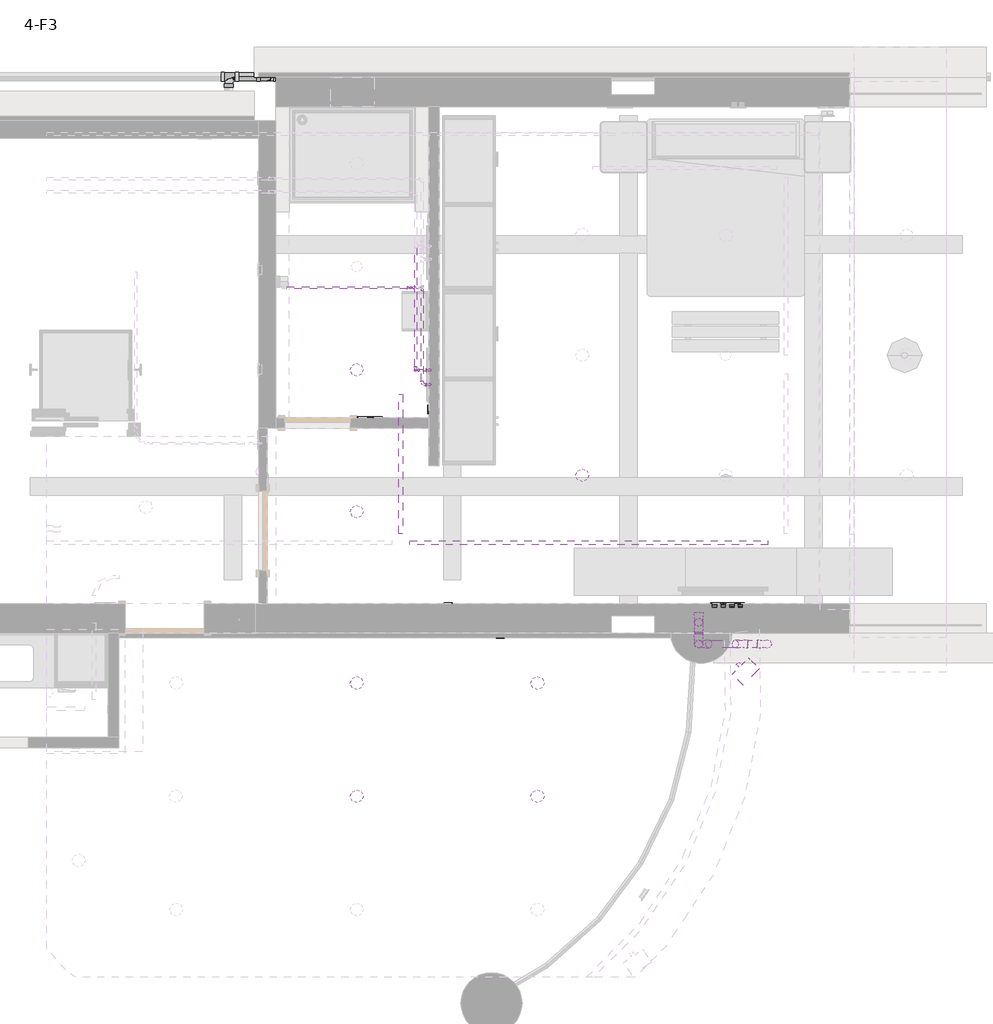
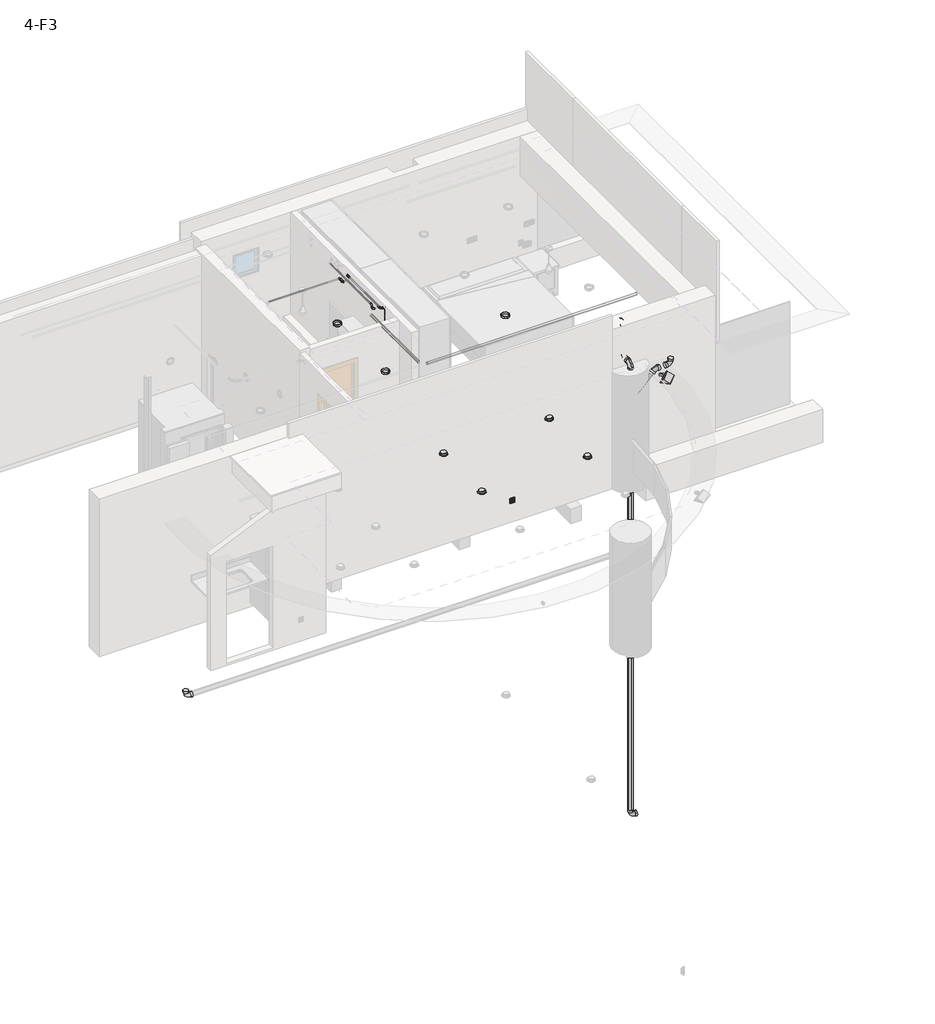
# One storey, part 10 of 11: 25 pipe fittings, 21 pipe segments, 8 light fixtures, 5 proxies, 3 switching devices, 2 cable carrier segments, 2 electric appliances.
"""IFC4 building model written with IfcOpenShell, lengths in millimetres."""

from ifc_helpers import new_model, si_unit, point, frame, frame_2d, origin, place, context, project, spatial, circle_curve, trimmed, segment, composite_curve, outline, extrude, transform, mapped, element, save
from components import wall_mounted_socket_ups_wall_mounted_socket_ups_4524048d, wall_mounted_data_socket_wall_mounted_data_socket_ap_474314e8, camera_light_down_street_light_9_3c192e06, m_downlight_recessed_can_152mm_incandescent_120v_1ee42939, m_recessed_lamp_round_led_e6f06c98, m_recessed_lamp_round_led_ae0475c0, m_bend_pvc_sch_40_dwv_standard_4b7acc6f, m_bend_pvc_sch_40_dwv_standard_a4b99d37, m_bend_pvc_sch_40_dwv_standard_738aab8b, m_bend_pvc_sch_40_dwv_standard_42e46e6b, m_bend_pvc_sch_40_dwv_standard_94070839, m_tee_reducing_sanitary_pvc_sch_40_dwv_standard_53539b48, m_tee_reducing_sanitary_pvc_sch_40_dwv_standard_7ce0c8e4, m_tee_reducing_sanitary_pvc_sch_40_dwv_standard_07fac418, m_tee_reducing_sanitary_pvc_sch_40_dwv_standard_926349c4, m_tee_sanitary_pvc_sch_40_dwv_standard_97cdccdc, switching_device_ab05ab5c

model = new_model("IFC4")

# Units and contexts
model_context = context("Model", 3, world=origin())
ifc_project = project(units=[si_unit("LENGTHUNIT", "METRE", prefix="MILLI")], contexts=[model_context])

# Site, building, storey
site = spatial("IfcSite", under=ifc_project)
building = spatial("IfcBuilding", under=site)
storey = spatial("IfcBuildingStorey", under=building, Name="4-F3", Elevation=9900.0)

# Proxies
placement = place(None, origin())
wall_mounted_socket_ups_wall_mounted_socket_ups_shape = wall_mounted_socket_ups_wall_mounted_socket_ups_4524048d(model_context)
element("IfcBuildingElementProxy", 1, Name="WALL MOUNTED SOCKET : WALL MOUNTED SOCKET", ObjectType="WALL MOUNTED SOCKET : WALL MOUNTED SOCKET", at=placement, inside=storey, context=model_context, shape_type="MappedRepresentation", body=[
    mapped(wall_mounted_socket_ups_wall_mounted_socket_ups_shape, transform((1942.5234079, 2780.6486583, 10350.0), x_axis=(1.0, 0.0, 0.0), y_axis=(0.0, 0.0, 1.0), z_axis=(0.0, -1.0, 0.0))),
])
element("IfcBuildingElementProxy", 2, Name="WALL MOUNTED SOCKET : WALL MOUNTED SOCKET", ObjectType="WALL MOUNTED SOCKET : WALL MOUNTED SOCKET", at=placement, inside=storey, context=model_context, shape_type="MappedRepresentation", body=[
    mapped(wall_mounted_socket_ups_wall_mounted_socket_ups_shape, transform((1346.1734079, 3170.6486583, 10350.0), x_axis=(-1.0, 0.0, 0.0), y_axis=(0.0, 0.0, 1.0), z_axis=(0.0, 1.0, 0.0))),
])
element("IfcBuildingElementProxy", 3, Name="WALL MOUNTED SOCKET UPS : WALL MOUNTED SOCKET UPS", ObjectType="WALL MOUNTED SOCKET UPS : WALL MOUNTED SOCKET UPS", at=placement, inside=storey, context=model_context, shape_type="MappedRepresentation", body=[
    mapped(wall_mounted_socket_ups_wall_mounted_socket_ups_shape, transform((4692.5234079, 3170.6486583, 11100.0), x_axis=(-1.0, 0.0, 0.0), y_axis=(0.0, 0.0, 1.0), z_axis=(0.0, 1.0, 0.0))),
])
element("IfcBuildingElementProxy", 4, Name="WALL MOUNTED SOCKET UPS : WALL MOUNTED SOCKET UPS", ObjectType="WALL MOUNTED SOCKET UPS : WALL MOUNTED SOCKET UPS", at=placement, inside=storey, context=model_context, shape_type="MappedRepresentation", body=[
    mapped(wall_mounted_socket_ups_wall_mounted_socket_ups_shape, transform((4598.1215014, 3170.6486583, 11100.0), x_axis=(-1.0, 0.0, 0.0), y_axis=(0.0, 0.0, 1.0), z_axis=(0.0, 1.0, 0.0))),
])
element("IfcBuildingElementProxy", 5, Name="WALL MOUNTED SOCKET UPS : WALL MOUNTED SOCKET UPS", ObjectType="WALL MOUNTED SOCKET UPS : WALL MOUNTED SOCKET UPS", at=placement, inside=storey, context=model_context, shape_type="MappedRepresentation", body=[
    mapped(wall_mounted_socket_ups_wall_mounted_socket_ups_shape, transform((1122.5234079, 5394.0420953, 11002.6), x_axis=(0.0, -1.0, 0.0), y_axis=(0.0, 0.0, 1.0), z_axis=(-1.0, 0.0, 0.0))),
])

# Cable carrier segments
element("IfcCableCarrierSegment", 6, ObjectType="Power", at=placement, inside=storey, context=model_context, shape_type="SweptSolid", body=[
    extrude(outline(composite_curve([segment(trimmed(circle_curve(frame_2d((3866.4863231, 12880.825)), 21.08), [point((3887.5663231, 12880.825))], [point((3866.4863231, 12859.745))], False, "CARTESIAN"), True, "CONTINUOUS"), segment(trimmed(circle_curve(frame_2d((3866.4863231, 12880.825)), 21.08), [point((3866.4863231, 12859.745))], [point((3845.4063231, 12880.825))], False, "CARTESIAN"), True, "CONTINUOUS"), segment(trimmed(circle_curve(frame_2d((3866.4863231, 12880.825)), 21.08), [point((3845.4063231, 12880.825))], [point((3866.4863231, 12901.905))], False, "CARTESIAN"), True, "CONTINUOUS"), segment(trimmed(circle_curve(frame_2d((3866.4863231, 12880.825)), 21.08), [point((3866.4863231, 12901.905))], [point((3887.5663231, 12880.825))], False, "CARTESIAN"), True, "CONTINUOUS")], self_intersect=False)), frame((907.0164705, 0.0, 0.0), z_axis=(1.0, 0.0, 0.0), x_axis=(0.0, 1.0, 0.0)), (0.0, 0.0, 1.0), 4100.0),
])
element("IfcCableCarrierSegment", 7, ObjectType="Power", at=placement, inside=storey, context=model_context, shape_type="SweptSolid", body=[
    extrude(outline(composite_curve([segment(trimmed(circle_curve(frame_2d((12880.825, 802.0164705)), 21.08), [point((12880.825, 823.0964705))], [point((12901.905, 802.0164705))], False, "CARTESIAN"), True, "CONTINUOUS"), segment(trimmed(circle_curve(frame_2d((12880.825, 802.0164705)), 21.08), [point((12901.905, 802.0164705))], [point((12880.825, 780.9364705))], False, "CARTESIAN"), True, "CONTINUOUS"), segment(trimmed(circle_curve(frame_2d((12880.825, 802.0164705)), 21.08), [point((12880.825, 780.9364705))], [point((12859.745, 802.0164705))], False, "CARTESIAN"), True, "CONTINUOUS"), segment(trimmed(circle_curve(frame_2d((12880.825, 802.0164705)), 21.08), [point((12859.745, 802.0164705))], [point((12880.825, 823.0964705))], False, "CARTESIAN"), True, "CONTINUOUS")], self_intersect=False)), frame((0.0, 3971.4863231, 0.0), z_axis=(0.0, 1.0, 0.0), x_axis=(0.0, 0.0, 1.0)), (0.0, 0.0, 1.0), 1595.2120988),
])

# Electric appliances
wall_mounted_data_socket_wall_mounted_data_socket_ap_shape = wall_mounted_data_socket_wall_mounted_data_socket_ap_474314e8(model_context)
element("IfcElectricAppliance", 8, ObjectType="WALL MOUNTED DATA SOCKET : WALL MOUNTED DATA SOCKET AP", at=placement, inside=storey, context=model_context, shape_type="MappedRepresentation", body=[
    mapped(wall_mounted_data_socket_wall_mounted_data_socket_ap_shape, transform((4498.1215014, 3170.6486583, 11100.0), x_axis=(-1.0, 0.0, 0.0), y_axis=(0.0, 0.0, 1.0), z_axis=(0.0, 1.0, 0.0))),
])
element("IfcElectricAppliance", 9, ObjectType="WALL MOUNTED DATA SOCKET : WALL MOUNTED DATA SOCKET AP", at=placement, inside=storey, context=model_context, shape_type="MappedRepresentation", body=[
    mapped(wall_mounted_data_socket_wall_mounted_data_socket_ap_shape, transform((4398.1215014, 3170.6486583, 11100.0), x_axis=(-1.0, 0.0, 0.0), y_axis=(0.0, 0.0, 1.0), z_axis=(0.0, 1.0, 0.0))),
])

# Light fixtures
camera_light_down_street_light_9_shape = camera_light_down_street_light_9_3c192e06(model_context)
element("IfcLightFixture", 10, ObjectType="Camera light down : Street Light (9)", at=placement, inside=storey, context=model_context, shape_type="MappedRepresentation", body=[
    mapped(camera_light_down_street_light_9_shape, transform((4531.4963064, 2611.8522, 12100.0), x_axis=(-0.7002166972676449, -0.7139303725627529, 0.0), y_axis=(0.7139303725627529, -0.7002166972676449, 0.0), z_axis=(0.0, 0.0, 1.0))),
])
m_downlight_recessed_can_152mm_incandescent_120v_shape = m_downlight_recessed_can_152mm_incandescent_120v_1ee42939(model_context)
element("IfcLightFixture", 11, ObjectType="M_Downlight - Recessed Can : 203mm Incandescent - 277V", at=placement, inside=storey, context=model_context, shape_type="MappedRepresentation", body=[
    mapped(m_downlight_recessed_can_152mm_incandescent_120v_shape, transform((2882.5234079, 4639.8354313, 10185.4), x_axis=(1.0, 0.0, 0.0), y_axis=(0.0, 1.0, 0.0), z_axis=(0.0, 0.0, 1.0))),
])
element("IfcLightFixture", 12, ObjectType="M_Downlight - Recessed Can : 203mm Incandescent - 277V", at=placement, inside=storey, context=model_context, shape_type="MappedRepresentation", body=[
    mapped(m_downlight_recessed_can_152mm_incandescent_120v_shape, transform((297.5234079, 4223.1608772, 10185.4), x_axis=(1.0, 0.0, 0.0), y_axis=(0.0, 1.0, 0.0), z_axis=(0.0, 0.0, 1.0))),
])
element("IfcLightFixture", 13, ObjectType="M_Downlight - Recessed Can : 203mm Incandescent - 277V", at=placement, inside=storey, context=model_context, shape_type="MappedRepresentation", body=[
    mapped(m_downlight_recessed_can_152mm_incandescent_120v_shape, transform((297.5234079, 5849.8354313, 10185.4), x_axis=(1.0, 0.0, 0.0), y_axis=(0.0, 1.0, 0.0), z_axis=(0.0, 0.0, 1.0))),
])
m_recessed_lamp_round_led_shape = m_recessed_lamp_round_led_e6f06c98(model_context)
element("IfcLightFixture", 14, ObjectType="M_Recessed Lamp - Round - LED : 100mm Trimless Downlight", at=placement, inside=storey, context=model_context, shape_type="MappedRepresentation", body=[
    mapped(m_recessed_lamp_round_led_shape, transform((299.0607507, 961.8997367, 12200.0), x_axis=(1.0, 0.0, 0.0), y_axis=(0.0, -1.0, 0.0), z_axis=(0.0, 0.0, -1.0))),
])
element("IfcLightFixture", 15, ObjectType="M_Recessed Lamp - Round - LED : 100mm Trimless Downlight", at=placement, inside=storey, context=model_context, shape_type="MappedRepresentation", body=[
    mapped(m_recessed_lamp_round_led_shape, transform((2368.5911261, 961.8997367, 12200.0), x_axis=(1.0, 0.0, 0.0), y_axis=(0.0, -1.0, 0.0), z_axis=(0.0, 0.0, -1.0))),
])
m_recessed_lamp_round_led_2_shape = m_recessed_lamp_round_led_ae0475c0(model_context)
element("IfcLightFixture", 16, ObjectType="M_Recessed Lamp - Round - LED : 100mm Trimless Downlight", at=placement, inside=storey, context=model_context, shape_type="MappedRepresentation", body=[
    mapped(m_recessed_lamp_round_led_2_shape, transform((299.0607507, 2259.6205595, 12200.0), x_axis=(1.0, 0.0, 0.0), y_axis=(0.0, -1.0, 0.0), z_axis=(0.0, 0.0, -1.0))),
])
element("IfcLightFixture", 17, ObjectType="M_Recessed Lamp - Round - LED : 100mm Trimless Downlight", at=placement, inside=storey, context=model_context, shape_type="MappedRepresentation", body=[
    mapped(m_recessed_lamp_round_led_2_shape, transform((2368.5911261, 2259.6205595, 12200.0), x_axis=(1.0, 0.0, 0.0), y_axis=(0.0, -1.0, 0.0), z_axis=(0.0, 0.0, -1.0))),
])

# Pipe fittings
m_bend_pvc_sch_40_dwv_standard_shape = m_bend_pvc_sch_40_dwv_standard_4b7acc6f(model_context)
element("IfcPipeFitting", 18, ObjectType="M_Bend - PVC - Sch 40 - DWV : Standard", at=placement, inside=storey, context=model_context, shape_type="MappedRepresentation", body=[
    mapped(m_bend_pvc_sch_40_dwv_standard_shape, transform((4695.9428605, 2705.8515547, 12153.7), x_axis=(0.7071067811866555, 0.0, 0.7071067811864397), y_axis=(0.7071067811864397, 0.0, -0.7071067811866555), z_axis=(0.0, 1.0, 0.0))),
])
m_bend_pvc_sch_40_dwv_standard_2_shape = m_bend_pvc_sch_40_dwv_standard_a4b99d37(model_context)
element("IfcPipeFitting", 19, ObjectType="M_Bend - PVC - Sch 40 - DWV : Standard", at=placement, inside=storey, context=model_context, shape_type="MappedRepresentation", body=[
    mapped(m_bend_pvc_sch_40_dwv_standard_2_shape, transform((4216.0105756, 2955.8515547, 13100.0), x_axis=(0.0, 0.0, 1.0), y_axis=(0.014419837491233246, 0.9998960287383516, 0.0), z_axis=(-0.9998960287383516, 0.014419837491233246, 0.0))),
])
element("IfcPipeFitting", 20, ObjectType="M_Bend - PVC - Sch 40 - DWV : Standard", at=placement, inside=storey, context=model_context, shape_type="MappedRepresentation", body=[
    mapped(m_bend_pvc_sch_40_dwv_standard_2_shape, transform((4216.0105756, 2705.8515547, 3090.0), x_axis=(0.0, 0.0, -1.0), y_axis=(1.0, 0.0, 0.0), z_axis=(0.0, -1.0, 0.0))),
])
element("IfcPipeFitting", 21, ObjectType="M_Bend - PVC - Sch 40 - DWV : Standard", at=placement, inside=storey, context=model_context, shape_type="MappedRepresentation", body=[
    mapped(m_bend_pvc_sch_40_dwv_standard_2_shape, transform((5000.9167157, 2705.8515547, 12153.7), x_axis=(1.0, 0.0, 0.0), y_axis=(0.0, 0.0, 1.0), z_axis=(0.0, -1.0, 0.0))),
])
element("IfcPipeFitting", 22, ObjectType="M_Bend - PVC - Sch 40 - DWV : Standard", at=placement, inside=storey, context=model_context, shape_type="MappedRepresentation", body=[
    mapped(m_bend_pvc_sch_40_dwv_standard_2_shape, transform((4216.0105756, 2955.8515547, 12430.0), x_axis=(0.0, 0.0, -1.0), y_axis=(0.0, -1.0, 0.0), z_axis=(-1.0, 0.0, 0.0))),
])
element("IfcPipeFitting", 23, ObjectType="M_Bend - PVC - Sch 40 - DWV : Standard", at=placement, inside=storey, context=model_context, shape_type="MappedRepresentation", body=[
    mapped(m_bend_pvc_sch_40_dwv_standard_2_shape, transform((4216.0105756, 2705.8515547, 12430.0), x_axis=(0.0, 0.0, 1.0), y_axis=(0.0, 1.0, 0.0), z_axis=(-1.0, 0.0, 0.0))),
])
element("IfcPipeFitting", 24, ObjectType="M_Bend - PVC - Sch 40 - DWV : Standard", at=placement, inside=storey, context=model_context, shape_type="MappedRepresentation", body=[
    mapped(m_bend_pvc_sch_40_dwv_standard_2_shape, transform((-730.3206324, 9205.404272, 3340.0), x_axis=(-0.9999999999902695, 4.4114922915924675e-06, 0.0), y_axis=(0.0, -3.233696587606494e-08, 0.9999999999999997), z_axis=(4.411492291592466e-06, 0.999999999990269, 3.23369658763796e-08))),
])
m_bend_pvc_sch_40_dwv_standard_3_shape = m_bend_pvc_sch_40_dwv_standard_738aab8b(model_context)
element("IfcPipeFitting", 25, ObjectType="M_Bend - PVC - Sch 40 - DWV : Standard", at=placement, inside=storey, context=model_context, shape_type="MappedRepresentation", body=[
    mapped(m_bend_pvc_sch_40_dwv_standard_3_shape, transform((-559.7171152, 8931.6620874, 10050.0), x_axis=(0.0, 0.0, 1.0), y_axis=(1.0, 0.0, 0.0), z_axis=(0.0, 1.0, 0.0))),
])
element("IfcPipeFitting", 26, ObjectType="M_Bend - PVC - Sch 40 - DWV : Standard", at=placement, inside=storey, context=model_context, shape_type="MappedRepresentation", body=[
    mapped(m_bend_pvc_sch_40_dwv_standard_3_shape, transform((1182.5234079, 5777.1932343, 10050.0), x_axis=(0.0, -1.0, 0.0), y_axis=(0.0, 0.0, 1.0), z_axis=(-1.0, 0.0, 0.0))),
])
element("IfcPipeFitting", 27, ObjectType="M_Bend - PVC - Sch 40 - DWV : Standard", at=placement, inside=storey, context=model_context, shape_type="MappedRepresentation", body=[
    mapped(m_bend_pvc_sch_40_dwv_standard_3_shape, transform((1182.5234079, 5777.1932343, 10650.0), x_axis=(0.0, 0.0, 1.0), y_axis=(-1.0, 0.0, 0.0), z_axis=(0.0, -1.0, 0.0))),
])
m_bend_pvc_sch_40_dwv_standard_4_shape = m_bend_pvc_sch_40_dwv_standard_42e46e6b(model_context)
element("IfcPipeFitting", 28, ObjectType="M_Bend - PVC - Sch 40 - DWV : Standard", at=placement, inside=storey, context=model_context, shape_type="MappedRepresentation", body=[
    mapped(m_bend_pvc_sch_40_dwv_standard_4_shape, transform((1047.5234079, 5677.6761499, 12870.0), x_axis=(0.0, -1.0, 0.0), y_axis=(1.0, 0.0, 0.0), z_axis=(0.0, 0.0, 1.0))),
])
element("IfcPipeFitting", 29, ObjectType="M_Bend - PVC - Sch 40 - DWV : Standard", at=placement, inside=storey, context=model_context, shape_type="MappedRepresentation", body=[
    mapped(m_bend_pvc_sch_40_dwv_standard_4_shape, transform((1135.0234079, 5677.6761499, 12870.0), x_axis=(1.0, 0.0, 0.0), y_axis=(0.0, 0.0, -1.0), z_axis=(0.0, 1.0, 0.0))),
])
element("IfcPipeFitting", 30, ObjectType="M_Bend - PVC - Sch 40 - DWV : Standard", at=placement, inside=storey, context=model_context, shape_type="MappedRepresentation", body=[
    mapped(m_bend_pvc_sch_40_dwv_standard_4_shape, transform((1135.0234079, 5677.6761499, 10350.0), x_axis=(0.0, 0.0, -1.0), y_axis=(-1.0, 0.0, 0.0), z_axis=(0.0, 1.0, 0.0))),
])
element("IfcPipeFitting", 31, ObjectType="M_Bend - PVC - Sch 40 - DWV : Standard", at=placement, inside=storey, context=model_context, shape_type="MappedRepresentation", body=[
    mapped(m_bend_pvc_sch_40_dwv_standard_4_shape, transform((972.5234079, 5844.2462218, 12870.0), x_axis=(0.0, -1.0, 0.0), y_axis=(0.0, 0.0, -1.0), z_axis=(1.0, 0.0, 0.0))),
])
element("IfcPipeFitting", 32, ObjectType="M_Bend - PVC - Sch 40 - DWV : Standard", at=placement, inside=storey, context=model_context, shape_type="MappedRepresentation", body=[
    mapped(m_bend_pvc_sch_40_dwv_standard_4_shape, transform((972.5234079, 5844.2462218, 12780.0), x_axis=(0.0, 0.0, -1.0), y_axis=(1.0, 0.0, 0.0), z_axis=(0.0, -1.0, 0.0))),
])
element("IfcPipeFitting", 33, ObjectType="M_Bend - PVC - Sch 40 - DWV : Standard", at=placement, inside=storey, context=model_context, shape_type="MappedRepresentation", body=[
    mapped(m_bend_pvc_sch_40_dwv_standard_4_shape, transform((1135.0234079, 5844.2462218, 12780.0), x_axis=(1.0, 0.0, 0.0), y_axis=(0.0, 0.0, -1.0), z_axis=(0.0, 1.0, 0.0))),
])
element("IfcPipeFitting", 34, ObjectType="M_Bend - PVC - Sch 40 - DWV : Standard", at=placement, inside=storey, context=model_context, shape_type="MappedRepresentation", body=[
    mapped(m_bend_pvc_sch_40_dwv_standard_4_shape, transform((1135.0234079, 5844.2462218, 10350.0), x_axis=(0.0, 0.0, -1.0), y_axis=(-1.0, 0.0, 0.0), z_axis=(0.0, 1.0, 0.0))),
])
element("IfcPipeFitting", 35, ObjectType="M_Bend - PVC - Sch 40 - DWV : Standard", at=placement, inside=storey, context=model_context, shape_type="MappedRepresentation", body=[
    mapped(m_bend_pvc_sch_40_dwv_standard_4_shape, transform((917.5234079, 6788.3845932, 12870.0), x_axis=(1.0, 0.0, 0.0), y_axis=(0.0, 0.0, -1.0), z_axis=(0.0, 1.0, 0.0))),
])
element("IfcPipeFitting", 36, ObjectType="M_Bend - PVC - Sch 40 - DWV : Standard", at=placement, inside=storey, context=model_context, shape_type="MappedRepresentation", body=[
    mapped(m_bend_pvc_sch_40_dwv_standard_4_shape, transform((917.5234079, 6788.3845932, 12780.0), x_axis=(0.0, 0.0, -1.0), y_axis=(1.0, 0.0, 0.0), z_axis=(0.0, -1.0, 0.0))),
])
m_bend_pvc_sch_40_dwv_standard_5_shape = m_bend_pvc_sch_40_dwv_standard_94070839(model_context)
element("IfcPipeFitting", 37, ObjectType="M_Bend - PVC - Sch 40 - DWV : Standard", at=placement, inside=storey, context=model_context, shape_type="MappedRepresentation", body=[
    mapped(m_bend_pvc_sch_40_dwv_standard_5_shape, transform((-730.3199946, 9205.4040503, 9903.3994005), x_axis=(0.999999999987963, 0.0, -4.906551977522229e-06), y_axis=(-4.906551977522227e-06, 3.2336965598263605e-08, -0.9999999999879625), z_axis=(0.0, 0.9999999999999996, 3.2336965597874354e-08))),
])
m_tee_reducing_sanitary_pvc_sch_40_dwv_standard_shape = m_tee_reducing_sanitary_pvc_sch_40_dwv_standard_53539b48(model_context)
element("IfcPipeFitting", 38, ObjectType="M_Tee Reducing Sanitary - PVC - Sch 40 - DWV : Standard", at=placement, inside=storey, context=model_context, shape_type="MappedRepresentation", body=[
    mapped(m_tee_reducing_sanitary_pvc_sch_40_dwv_standard_shape, transform((1047.5234079, 6788.3845932, 12870.0), x_axis=(0.0, 1.0, 0.0), y_axis=(0.0, 0.0, 1.0), z_axis=(1.0, 0.0, 0.0))),
])
m_tee_reducing_sanitary_pvc_sch_40_dwv_standard_2_shape = m_tee_reducing_sanitary_pvc_sch_40_dwv_standard_7ce0c8e4(model_context)
element("IfcPipeFitting", 39, ObjectType="M_Tee Reducing Sanitary - PVC - Sch 40 - DWV : Standard", at=placement, inside=storey, context=model_context, shape_type="MappedRepresentation", body=[
    mapped(m_tee_reducing_sanitary_pvc_sch_40_dwv_standard_2_shape, transform((-1169.725083, 9205.4040503, 9903.4015564), x_axis=(-0.9999999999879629, 0.0, 4.906551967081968e-06), y_axis=(0.0, 1.0, 0.0), z_axis=(-4.906551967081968e-06, 0.0, -0.9999999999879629))),
])
m_tee_reducing_sanitary_pvc_sch_40_dwv_standard_3_shape = m_tee_reducing_sanitary_pvc_sch_40_dwv_standard_07fac418(model_context)
element("IfcPipeFitting", 40, ObjectType="M_Tee Reducing Sanitary - PVC - Sch 40 - DWV : Standard", at=placement, inside=storey, context=model_context, shape_type="MappedRepresentation", body=[
    mapped(m_tee_reducing_sanitary_pvc_sch_40_dwv_standard_3_shape, transform((-559.7171152, 9331.6620874, 9887.5), x_axis=(0.0, 0.0, 1.0), y_axis=(0.0, 1.0, 0.0), z_axis=(-1.0, 0.0, 0.0))),
])
m_tee_reducing_sanitary_pvc_sch_40_dwv_standard_4_shape = m_tee_reducing_sanitary_pvc_sch_40_dwv_standard_926349c4(model_context)
element("IfcPipeFitting", 41, ObjectType="M_Tee Reducing Sanitary - PVC - Sch 40 - DWV : Standard", at=placement, inside=storey, context=model_context, shape_type="MappedRepresentation", body=[
    mapped(m_tee_reducing_sanitary_pvc_sch_40_dwv_standard_4_shape, transform((-559.7171152, 8931.6620874, 9887.5), x_axis=(0.0, -1.0, 0.0), y_axis=(0.0, 0.0, -1.0), z_axis=(1.0, 0.0, 0.0))),
])
m_tee_sanitary_pvc_sch_40_dwv_standard_shape = m_tee_sanitary_pvc_sch_40_dwv_standard_97cdccdc(model_context)
element("IfcPipeFitting", 42, ObjectType="M_Tee Sanitary - PVC - Sch 40 - DWV : Standard", at=placement, inside=storey, context=model_context, shape_type="MappedRepresentation", body=[
    mapped(m_tee_sanitary_pvc_sch_40_dwv_standard_shape, transform((4216.0105756, 2705.8515547, 11673.7677151), x_axis=(0.0, 0.0, 1.0), y_axis=(-1.0, 0.0, 0.0), z_axis=(0.0, -1.0, 0.0))),
])

# Pipe segments
element("IfcPipeSegment", 43, ObjectType="PVC - DWV", at=placement, inside=storey, context=model_context, shape_type="SweptSolid", body=[
    extrude(outline(composite_curve([segment(trimmed(circle_curve(frame_2d((4216.0105756, 2955.8515547)), 44.45), [point((4260.4605756, 2955.8515547))], [point((4216.0105756, 2911.4015547))], False, "CARTESIAN"), True, "CONTINUOUS"), segment(trimmed(circle_curve(frame_2d((4216.0105756, 2955.8515547)), 44.45), [point((4216.0105756, 2911.4015547))], [point((4171.5605756, 2955.8515547))], False, "CARTESIAN"), True, "CONTINUOUS"), segment(trimmed(circle_curve(frame_2d((4216.0105756, 2955.8515547)), 44.45), [point((4171.5605756, 2955.8515547))], [point((4216.0105756, 3000.3015547))], False, "CARTESIAN"), True, "CONTINUOUS"), segment(trimmed(circle_curve(frame_2d((4216.0105756, 2955.8515547)), 44.45), [point((4216.0105756, 3000.3015547))], [point((4260.4605756, 2955.8515547))], False, "CARTESIAN"), True, "CONTINUOUS")], self_intersect=False)), frame((0.0, 0.0, 12545.9002), z_axis=(0.0, 0.0, 1.0), x_axis=(1.0, 0.0, 0.0)), (0.0, 0.0, 1.0), 438.1996),
])
element("IfcPipeSegment", 44, ObjectType="PVC - DWV", at=placement, inside=storey, context=model_context, shape_type="SweptSolid", body=[
    extrude(outline(composite_curve([segment(trimmed(circle_curve(frame_2d((0.0, -44.45)), 44.45), [point((0.0, 0.0))], [point((44.4500001, -44.45))], False, "CARTESIAN"), True, "CONTINUOUS"), segment(trimmed(circle_curve(frame_2d((0.0, -44.45)), 44.45), [point((44.4500001, -44.45))], [point((0.0, -88.9))], False, "CARTESIAN"), True, "CONTINUOUS"), segment(trimmed(circle_curve(frame_2d((0.0, -44.45)), 44.45), [point((0.0, -88.9))], [point((-44.45, -44.45))], False, "CARTESIAN"), True, "CONTINUOUS"), segment(trimmed(circle_curve(frame_2d((0.0, -44.45)), 44.45), [point((-44.45, -44.45))], [point((0.0, 0.0))], False, "CARTESIAN"), True, "CONTINUOUS")], self_intersect=False)), frame((4328.7617976, 2750.3015547, 11786.5189372), z_axis=(0.707106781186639, 0.0, 0.7071067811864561), x_axis=(0.7071067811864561, 0.0, -0.707106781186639)), (0.0, 0.0, 1.0), 436.7224389),
])
element("IfcPipeSegment", 45, ObjectType="PVC - DWV", at=placement, inside=storey, context=model_context, shape_type="SweptSolid", body=[
    extrude(outline(composite_curve([segment(trimmed(circle_curve(frame_2d((4216.0105756, 2705.8515547)), 44.45), [point((4171.5605756, 2705.8515547))], [point((4216.0105756, 2750.3015547))], False, "CARTESIAN"), True, "CONTINUOUS"), segment(trimmed(circle_curve(frame_2d((4216.0105756, 2705.8515547)), 44.45), [point((4216.0105756, 2750.3015547))], [point((4260.4605756, 2705.8515547))], False, "CARTESIAN"), True, "CONTINUOUS"), segment(trimmed(circle_curve(frame_2d((4216.0105756, 2705.8515547)), 44.45), [point((4260.4605756, 2705.8515547))], [point((4216.0105756, 2661.4015547))], False, "CARTESIAN"), True, "CONTINUOUS"), segment(trimmed(circle_curve(frame_2d((4216.0105756, 2705.8515547)), 44.45), [point((4216.0105756, 2661.4015547))], [point((4171.5605756, 2705.8515547))], False, "CARTESIAN"), True, "CONTINUOUS")], self_intersect=False)), frame((0.0, 0.0, 3205.9002), z_axis=(0.0, 0.0, 1.0), x_axis=(1.0, 0.0, 0.0)), (0.0, 0.0, 1.0), 8351.9673151),
])
element("IfcPipeSegment", 46, ObjectType="PVC - DWV", at=placement, inside=storey, context=model_context, shape_type="SweptSolid", body=[
    extrude(outline(composite_curve([segment(trimmed(circle_curve(frame_2d((2705.8515547, 12153.7)), 44.45), [point((2661.4015547, 12153.7))], [point((2705.8515547, 12198.15))], False, "CARTESIAN"), True, "CONTINUOUS"), segment(trimmed(circle_curve(frame_2d((2705.8515547, 12153.7)), 44.45), [point((2705.8515547, 12198.15))], [point((2750.3015547, 12153.7))], False, "CARTESIAN"), True, "CONTINUOUS"), segment(trimmed(circle_curve(frame_2d((2705.8515547, 12153.7)), 44.45), [point((2750.3015547, 12153.7))], [point((2705.8515547, 12109.25))], False, "CARTESIAN"), True, "CONTINUOUS"), segment(trimmed(circle_curve(frame_2d((2705.8515547, 12153.7)), 44.45), [point((2705.8515547, 12109.25))], [point((2661.4015547, 12153.7))], False, "CARTESIAN"), True, "CONTINUOUS")], self_intersect=False)), frame((4778.4928605, 0.0, 0.0), z_axis=(1.0, 0.0, 0.0), x_axis=(0.0, 1.0, 0.0)), (0.0, 0.0, 1.0), 106.5236552),
])
element("IfcPipeSegment", 47, ObjectType="PVC - DWV", at=placement, inside=storey, context=model_context, shape_type="SweptSolid", body=[
    extrude(outline(composite_curve([segment(trimmed(circle_curve(frame_2d((6788.3845932, 12870.0)), 10.668), [point((6777.7165932, 12870.0))], [point((6788.3845932, 12880.668))], False, "CARTESIAN"), True, "CONTINUOUS"), segment(trimmed(circle_curve(frame_2d((6788.3845932, 12870.0)), 10.668), [point((6788.3845932, 12880.668))], [point((6799.0525932, 12870.0))], False, "CARTESIAN"), True, "CONTINUOUS"), segment(trimmed(circle_curve(frame_2d((6788.3845932, 12870.0)), 10.668), [point((6799.0525932, 12870.0))], [point((6788.3845932, 12859.332))], False, "CARTESIAN"), True, "CONTINUOUS"), segment(trimmed(circle_curve(frame_2d((6788.3845932, 12870.0)), 10.668), [point((6788.3845932, 12859.332))], [point((6777.7165932, 12870.0))], False, "CARTESIAN"), True, "CONTINUOUS")], self_intersect=False)), frame((-501.4625296, 0.0, 0.0), z_axis=(1.0, 0.0, 0.0), x_axis=(0.0, 1.0, 0.0)), (0.0, 0.0, 1.0), 1377.971875),
])
element("IfcPipeSegment", 48, ObjectType="PVC - DWV", at=placement, inside=storey, context=model_context, shape_type="SweptSolid", body=[
    extrude(outline(composite_curve([segment(trimmed(circle_curve(frame_2d((12430.0, 4216.0105756)), 44.45), [point((12430.0, 4171.5605756))], [point((12385.55, 4216.0105756))], False, "CARTESIAN"), True, "CONTINUOUS"), segment(trimmed(circle_curve(frame_2d((12430.0, 4216.0105756)), 44.45), [point((12385.55, 4216.0105756))], [point((12430.0, 4260.4605756))], False, "CARTESIAN"), True, "CONTINUOUS"), segment(trimmed(circle_curve(frame_2d((12430.0, 4216.0105756)), 44.45), [point((12430.0, 4260.4605756))], [point((12474.45, 4216.0105756))], False, "CARTESIAN"), True, "CONTINUOUS"), segment(trimmed(circle_curve(frame_2d((12430.0, 4216.0105756)), 44.45), [point((12474.45, 4216.0105756))], [point((12430.0, 4171.5605756))], False, "CARTESIAN"), True, "CONTINUOUS")], self_intersect=False)), frame((0.0, 2821.7517547, 0.0), z_axis=(0.0, 1.0, 0.0), x_axis=(0.0, 0.0, 1.0)), (0.0, 0.0, 1.0), 18.1996),
])
element("IfcPipeSegment", 49, ObjectType="PVC - DWV", at=placement, inside=storey, context=model_context, shape_type="SweptSolid", body=[
    extrude(outline(composite_curve([segment(trimmed(circle_curve(frame_2d((4216.0105756, 2705.8515547)), 44.45), [point((4171.5605756, 2705.8515547))], [point((4216.0105756, 2750.3015547))], False, "CARTESIAN"), True, "CONTINUOUS"), segment(trimmed(circle_curve(frame_2d((4216.0105756, 2705.8515547)), 44.45), [point((4216.0105756, 2750.3015547))], [point((4260.4605756, 2705.8515547))], False, "CARTESIAN"), True, "CONTINUOUS"), segment(trimmed(circle_curve(frame_2d((4216.0105756, 2705.8515547)), 44.45), [point((4260.4605756, 2705.8515547))], [point((4216.0105756, 2661.4015547))], False, "CARTESIAN"), True, "CONTINUOUS"), segment(trimmed(circle_curve(frame_2d((4216.0105756, 2705.8515547)), 44.45), [point((4216.0105756, 2661.4015547))], [point((4171.5605756, 2705.8515547))], False, "CARTESIAN"), True, "CONTINUOUS")], self_intersect=False)), frame((0.0, 0.0, 11833.2220225), z_axis=(0.0, 0.0, 1.0), x_axis=(1.0, 0.0, 0.0)), (0.0, 0.0, 1.0), 480.8777775),
])
element("IfcPipeSegment", 50, ObjectType="PVC - DWV", at=placement, inside=storey, context=model_context, shape_type="SweptSolid", body=[
    extrude(outline(composite_curve([segment(trimmed(circle_curve(frame_2d((9887.5, -559.7171152)), 30.1625), [point((9887.5, -529.5546152))], [point((9917.6625, -559.7171152))], False, "CARTESIAN"), True, "CONTINUOUS"), segment(trimmed(circle_curve(frame_2d((9887.5, -559.7171152)), 30.1625), [point((9917.6625, -559.7171152))], [point((9887.5, -589.8796152))], False, "CARTESIAN"), True, "CONTINUOUS"), segment(trimmed(circle_curve(frame_2d((9887.5, -559.7171152)), 30.1625), [point((9887.5, -589.8796152))], [point((9857.3375, -559.7171152))], False, "CARTESIAN"), True, "CONTINUOUS"), segment(trimmed(circle_curve(frame_2d((9887.5, -559.7171152)), 30.1625), [point((9857.3375, -559.7171152))], [point((9887.5, -529.5546152))], False, "CARTESIAN"), True, "CONTINUOUS")], self_intersect=False)), frame((0.0, 8999.9372874, 0.0), z_axis=(0.0, 1.0, 0.0), x_axis=(0.0, 0.0, 1.0)), (0.0, 0.0, 1.0), 228.5246),
])
element("IfcPipeSegment", 51, ObjectType="PVC - DWV", at=placement, inside=storey, context=model_context, shape_type="SweptSolid", body=[
    extrude(outline(composite_curve([segment(trimmed(circle_curve(frame_2d((9205.4040503, 9903.4009844)), 44.45), [point((9160.9540503, 9903.4009844))], [point((9205.4040503, 9947.8509844))], False, "CARTESIAN"), True, "CONTINUOUS"), segment(trimmed(circle_curve(frame_2d((9205.4040503, 9903.4009844)), 44.45), [point((9205.4040503, 9947.8509844))], [point((9249.8540503, 9903.4009844))], False, "CARTESIAN"), True, "CONTINUOUS"), segment(trimmed(circle_curve(frame_2d((9205.4040503, 9903.4009844)), 44.45), [point((9249.8540503, 9903.4009844))], [point((9205.4040503, 9858.9509844))], False, "CARTESIAN"), True, "CONTINUOUS"), segment(trimmed(circle_curve(frame_2d((9205.4040503, 9903.4009844)), 44.45), [point((9205.4040503, 9858.9509844))], [point((9160.9540503, 9903.4009844))], False, "CARTESIAN"), True, "CONTINUOUS")], self_intersect=False)), frame((-1053.1463768, 0.0, 0.0), z_axis=(1.0, 0.0, 0.0), x_axis=(0.0, 1.0, 0.0)), (0.0, 0.0, 1.0), 206.9261822),
])
element("IfcPipeSegment", 52, ObjectType="PVC - DWV", at=placement, inside=storey, context=model_context, shape_type="SweptSolid", body=[
    extrude(outline(composite_curve([segment(trimmed(circle_curve(frame_2d((9887.5, -559.7171152)), 30.1625), [point((9887.5, -529.5546152))], [point((9917.6625, -559.7171152))], False, "CARTESIAN"), True, "CONTINUOUS"), segment(trimmed(circle_curve(frame_2d((9887.5, -559.7171152)), 30.1625), [point((9917.6625, -559.7171152))], [point((9887.5, -589.8796152))], False, "CARTESIAN"), True, "CONTINUOUS"), segment(trimmed(circle_curve(frame_2d((9887.5, -559.7171152)), 30.1625), [point((9887.5, -589.8796152))], [point((9857.3375, -559.7171152))], False, "CARTESIAN"), True, "CONTINUOUS"), segment(trimmed(circle_curve(frame_2d((9887.5, -559.7171152)), 30.1625), [point((9857.3375, -559.7171152))], [point((9887.5, -529.5546152))], False, "CARTESIAN"), True, "CONTINUOUS")], self_intersect=False)), frame((0.0, 8690.4672549, 0.0), z_axis=(0.0, 1.0, 0.0), x_axis=(0.0, 0.0, 1.0)), (0.0, 0.0, 1.0), 191.9950325),
])
element("IfcPipeSegment", 53, ObjectType="PVC - DWV", at=placement, inside=storey, context=model_context, shape_type="SweptSolid", body=[
    extrude(outline(composite_curve([segment(trimmed(circle_curve(frame_2d((5677.6761499, 12870.0)), 10.668), [point((5667.0081499, 12870.0))], [point((5677.6761499, 12880.668))], False, "CARTESIAN"), True, "CONTINUOUS"), segment(trimmed(circle_curve(frame_2d((5677.6761499, 12870.0)), 10.668), [point((5677.6761499, 12880.668))], [point((5688.3441499, 12870.0))], False, "CARTESIAN"), True, "CONTINUOUS"), segment(trimmed(circle_curve(frame_2d((5677.6761499, 12870.0)), 10.668), [point((5688.3441499, 12870.0))], [point((5677.6761499, 12859.332))], False, "CARTESIAN"), True, "CONTINUOUS"), segment(trimmed(circle_curve(frame_2d((5677.6761499, 12870.0)), 10.668), [point((5677.6761499, 12859.332))], [point((5667.0081499, 12870.0))], False, "CARTESIAN"), True, "CONTINUOUS")], self_intersect=False)), frame((1088.5374704, 0.0, 0.0), z_axis=(1.0, 0.0, 0.0), x_axis=(0.0, 1.0, 0.0)), (0.0, 0.0, 1.0), 5.471875),
])
element("IfcPipeSegment", 54, ObjectType="PVC - DWV", at=placement, inside=storey, context=model_context, shape_type="SweptSolid", body=[
    extrude(outline(composite_curve([segment(trimmed(circle_curve(frame_2d((1135.0234079, 5677.6761499)), 10.668), [point((1145.6914079, 5677.6761499))], [point((1135.0234079, 5667.0081499))], False, "CARTESIAN"), True, "CONTINUOUS"), segment(trimmed(circle_curve(frame_2d((1135.0234079, 5677.6761499)), 10.668), [point((1135.0234079, 5667.0081499))], [point((1124.3554079, 5677.6761499))], False, "CARTESIAN"), True, "CONTINUOUS"), segment(trimmed(circle_curve(frame_2d((1135.0234079, 5677.6761499)), 10.668), [point((1124.3554079, 5677.6761499))], [point((1135.0234079, 5688.3441499))], False, "CARTESIAN"), True, "CONTINUOUS"), segment(trimmed(circle_curve(frame_2d((1135.0234079, 5677.6761499)), 10.668), [point((1135.0234079, 5688.3441499))], [point((1145.6914079, 5677.6761499))], False, "CARTESIAN"), True, "CONTINUOUS")], self_intersect=False)), frame((0.0, 0.0, 10391.0140625), z_axis=(0.0, 0.0, 1.0), x_axis=(1.0, 0.0, 0.0)), (0.0, 0.0, 1.0), 2437.971875),
])
element("IfcPipeSegment", 55, ObjectType="PVC - DWV", at=placement, inside=storey, context=model_context, shape_type="SweptSolid", body=[
    extrude(outline(composite_curve([segment(trimmed(circle_curve(frame_2d((12870.0, 1047.5234079)), 10.668), [point((12870.0, 1036.8554079))], [point((12859.332, 1047.5234079))], False, "CARTESIAN"), True, "CONTINUOUS"), segment(trimmed(circle_curve(frame_2d((12870.0, 1047.5234079)), 10.668), [point((12859.332, 1047.5234079))], [point((12870.0, 1058.1914079))], False, "CARTESIAN"), True, "CONTINUOUS"), segment(trimmed(circle_curve(frame_2d((12870.0, 1047.5234079)), 10.668), [point((12870.0, 1058.1914079))], [point((12880.668, 1047.5234079))], False, "CARTESIAN"), True, "CONTINUOUS"), segment(trimmed(circle_curve(frame_2d((12870.0, 1047.5234079)), 10.668), [point((12880.668, 1047.5234079))], [point((12870.0, 1036.8554079))], False, "CARTESIAN"), True, "CONTINUOUS")], self_intersect=False)), frame((0.0, 5718.6902124, 0.0), z_axis=(0.0, 1.0, 0.0), x_axis=(0.0, 0.0, 1.0)), (0.0, 0.0, 1.0), 1034.834262),
])
element("IfcPipeSegment", 56, ObjectType="PVC - DWV", at=placement, inside=storey, context=model_context, shape_type="SweptSolid", body=[
    extrude(outline(composite_curve([segment(trimmed(circle_curve(frame_2d((12870.0, 972.5234079)), 10.668), [point((12870.0, 961.8554079))], [point((12859.332, 972.5234079))], False, "CARTESIAN"), True, "CONTINUOUS"), segment(trimmed(circle_curve(frame_2d((12870.0, 972.5234079)), 10.668), [point((12859.332, 972.5234079))], [point((12870.0, 983.1914079))], False, "CARTESIAN"), True, "CONTINUOUS"), segment(trimmed(circle_curve(frame_2d((12870.0, 972.5234079)), 10.668), [point((12870.0, 983.1914079))], [point((12880.668, 972.5234079))], False, "CARTESIAN"), True, "CONTINUOUS"), segment(trimmed(circle_curve(frame_2d((12870.0, 972.5234079)), 10.668), [point((12880.668, 972.5234079))], [point((12870.0, 961.8554079))], False, "CARTESIAN"), True, "CONTINUOUS")], self_intersect=False)), frame((0.0, 5885.2602843, 0.0), z_axis=(0.0, 1.0, 0.0), x_axis=(0.0, 0.0, 1.0)), (0.0, 0.0, 1.0), 1358.9859375),
])
element("IfcPipeSegment", 57, ObjectType="PVC - DWV", at=placement, inside=storey, context=model_context, shape_type="SweptSolid", body=[
    extrude(outline(composite_curve([segment(trimmed(circle_curve(frame_2d((5844.2462218, 12780.0)), 10.668), [point((5833.5782218, 12780.0))], [point((5844.2462218, 12790.668))], False, "CARTESIAN"), True, "CONTINUOUS"), segment(trimmed(circle_curve(frame_2d((5844.2462218, 12780.0)), 10.668), [point((5844.2462218, 12790.668))], [point((5854.9142218, 12780.0))], False, "CARTESIAN"), True, "CONTINUOUS"), segment(trimmed(circle_curve(frame_2d((5844.2462218, 12780.0)), 10.668), [point((5854.9142218, 12780.0))], [point((5844.2462218, 12769.332))], False, "CARTESIAN"), True, "CONTINUOUS"), segment(trimmed(circle_curve(frame_2d((5844.2462218, 12780.0)), 10.668), [point((5844.2462218, 12769.332))], [point((5833.5782218, 12780.0))], False, "CARTESIAN"), True, "CONTINUOUS")], self_intersect=False)), frame((1013.5374704, 0.0, 0.0), z_axis=(1.0, 0.0, 0.0), x_axis=(0.0, 1.0, 0.0)), (0.0, 0.0, 1.0), 80.471875),
])
element("IfcPipeSegment", 58, ObjectType="PVC - DWV", at=placement, inside=storey, context=model_context, shape_type="SweptSolid", body=[
    extrude(outline(composite_curve([segment(trimmed(circle_curve(frame_2d((972.5234079, 5844.2462218)), 10.668), [point((983.1914079, 5844.2462218))], [point((972.5234079, 5833.5782218))], False, "CARTESIAN"), True, "CONTINUOUS"), segment(trimmed(circle_curve(frame_2d((972.5234079, 5844.2462218)), 10.668), [point((972.5234079, 5833.5782218))], [point((961.8554079, 5844.2462218))], False, "CARTESIAN"), True, "CONTINUOUS"), segment(trimmed(circle_curve(frame_2d((972.5234079, 5844.2462218)), 10.668), [point((961.8554079, 5844.2462218))], [point((972.5234079, 5854.9142218))], False, "CARTESIAN"), True, "CONTINUOUS"), segment(trimmed(circle_curve(frame_2d((972.5234079, 5844.2462218)), 10.668), [point((972.5234079, 5854.9142218))], [point((983.1914079, 5844.2462218))], False, "CARTESIAN"), True, "CONTINUOUS")], self_intersect=False)), frame((0.0, 0.0, 12821.0140625), z_axis=(0.0, 0.0, 1.0), x_axis=(1.0, 0.0, 0.0)), (0.0, 0.0, 1.0), 7.971875),
])
element("IfcPipeSegment", 59, ObjectType="PVC - DWV", at=placement, inside=storey, context=model_context, shape_type="SweptSolid", body=[
    extrude(outline(composite_curve([segment(trimmed(circle_curve(frame_2d((1135.0234079, 5844.2462218)), 10.668), [point((1145.6914079, 5844.2462218))], [point((1135.0234079, 5833.5782218))], False, "CARTESIAN"), True, "CONTINUOUS"), segment(trimmed(circle_curve(frame_2d((1135.0234079, 5844.2462218)), 10.668), [point((1135.0234079, 5833.5782218))], [point((1124.3554079, 5844.2462218))], False, "CARTESIAN"), True, "CONTINUOUS"), segment(trimmed(circle_curve(frame_2d((1135.0234079, 5844.2462218)), 10.668), [point((1124.3554079, 5844.2462218))], [point((1135.0234079, 5854.9142218))], False, "CARTESIAN"), True, "CONTINUOUS"), segment(trimmed(circle_curve(frame_2d((1135.0234079, 5844.2462218)), 10.668), [point((1135.0234079, 5854.9142218))], [point((1145.6914079, 5844.2462218))], False, "CARTESIAN"), True, "CONTINUOUS")], self_intersect=False)), frame((0.0, 0.0, 10391.0140625), z_axis=(0.0, 0.0, 1.0), x_axis=(1.0, 0.0, 0.0)), (0.0, 0.0, 1.0), 2347.971875),
])
element("IfcPipeSegment", 60, ObjectType="PVC - DWV", at=placement, inside=storey, context=model_context, shape_type="SweptSolid", body=[
    extrude(outline(composite_curve([segment(trimmed(circle_curve(frame_2d((6788.3845932, 12780.0)), 10.668), [point((6799.0525932, 12780.0))], [point((6788.3845932, 12769.332))], False, "CARTESIAN"), True, "CONTINUOUS"), segment(trimmed(circle_curve(frame_2d((6788.3845932, 12780.0)), 10.668), [point((6788.3845932, 12769.332))], [point((6777.7165932, 12780.0))], False, "CARTESIAN"), True, "CONTINUOUS"), segment(trimmed(circle_curve(frame_2d((6788.3845932, 12780.0)), 10.668), [point((6777.7165932, 12780.0))], [point((6788.3845932, 12790.668))], False, "CARTESIAN"), True, "CONTINUOUS"), segment(trimmed(circle_curve(frame_2d((6788.3845932, 12780.0)), 10.668), [point((6788.3845932, 12790.668))], [point((6799.0525932, 12780.0))], False, "CARTESIAN"), True, "CONTINUOUS")], self_intersect=False)), frame((958.5374704, 0.0, 0.0), z_axis=(1.0, 0.0, 0.0), x_axis=(0.0, 1.0, 0.0)), (0.0, 0.0, 1.0), 47.971875),
])
element("IfcPipeSegment", 61, ObjectType="PVC - DWV", at=placement, inside=storey, context=model_context, shape_type="SweptSolid", body=[
    extrude(outline(composite_curve([segment(trimmed(circle_curve(frame_2d((917.5234079, 6788.3845932)), 10.668), [point((928.1914079, 6788.3845932))], [point((917.5234079, 6777.7165932))], False, "CARTESIAN"), True, "CONTINUOUS"), segment(trimmed(circle_curve(frame_2d((917.5234079, 6788.3845932)), 10.668), [point((917.5234079, 6777.7165932))], [point((906.8554079, 6788.3845932))], False, "CARTESIAN"), True, "CONTINUOUS"), segment(trimmed(circle_curve(frame_2d((917.5234079, 6788.3845932)), 10.668), [point((906.8554079, 6788.3845932))], [point((917.5234079, 6799.0525932))], False, "CARTESIAN"), True, "CONTINUOUS"), segment(trimmed(circle_curve(frame_2d((917.5234079, 6788.3845932)), 10.668), [point((917.5234079, 6799.0525932))], [point((928.1914079, 6788.3845932))], False, "CARTESIAN"), True, "CONTINUOUS")], self_intersect=False)), frame((0.0, 0.0, 12821.0140625), z_axis=(0.0, 0.0, 1.0), x_axis=(1.0, 0.0, 0.0)), (0.0, 0.0, 1.0), 7.971875),
])
element("IfcPipeSegment", 62, ObjectType="PVC - DWV", at=placement, inside=storey, context=model_context, shape_type="SweptSolid", body=[
    extrude(outline(composite_curve([segment(trimmed(circle_curve(frame_2d((1047.5234079, 6788.3845932)), 10.668), [point((1058.1914079, 6788.3845932))], [point((1047.5234079, 6777.7165932))], False, "CARTESIAN"), True, "CONTINUOUS"), segment(trimmed(circle_curve(frame_2d((1047.5234079, 6788.3845932)), 10.668), [point((1047.5234079, 6777.7165932))], [point((1036.8554079, 6788.3845932))], False, "CARTESIAN"), True, "CONTINUOUS"), segment(trimmed(circle_curve(frame_2d((1047.5234079, 6788.3845932)), 10.668), [point((1036.8554079, 6788.3845932))], [point((1047.5234079, 6799.0525932))], False, "CARTESIAN"), True, "CONTINUOUS"), segment(trimmed(circle_curve(frame_2d((1047.5234079, 6788.3845932)), 10.668), [point((1047.5234079, 6799.0525932))], [point((1058.1914079, 6788.3845932))], False, "CARTESIAN"), True, "CONTINUOUS")], self_intersect=False)), frame((0.0, 0.0, 12821.0140625), z_axis=(0.0, 0.0, 1.0), x_axis=(1.0, 0.0, 0.0)), (0.0, 0.0, 1.0), 13.0179687),
])
element("IfcPipeSegment", 63, ObjectType="PVC - DWV", at=placement, inside=storey, context=model_context, shape_type="SweptSolid", body=[
    extrude(outline(composite_curve([segment(trimmed(circle_curve(frame_2d((1182.5234079, 5777.1932343)), 24.13), [point((1158.3934079, 5777.1932343))], [point((1182.5234079, 5801.3232343))], False, "CARTESIAN"), True, "CONTINUOUS"), segment(trimmed(circle_curve(frame_2d((1182.5234079, 5777.1932343)), 24.13), [point((1182.5234079, 5801.3232343))], [point((1206.6534079, 5777.1932343))], False, "CARTESIAN"), True, "CONTINUOUS"), segment(trimmed(circle_curve(frame_2d((1182.5234079, 5777.1932343)), 24.13), [point((1206.6534079, 5777.1932343))], [point((1182.5234079, 5753.0632343))], False, "CARTESIAN"), True, "CONTINUOUS"), segment(trimmed(circle_curve(frame_2d((1182.5234079, 5777.1932343)), 24.13), [point((1182.5234079, 5753.0632343))], [point((1158.3934079, 5777.1932343))], False, "CARTESIAN"), True, "CONTINUOUS")], self_intersect=False)), frame((0.0, 0.0, 10111.8998), z_axis=(0.0, 0.0, 1.0), x_axis=(1.0, 0.0, 0.0)), (0.0, 0.0, 1.0), 476.2004),
])

# Switching devices
switching_device_shape = switching_device_ab05ab5c(model_context)
element("IfcSwitchingDevice", 64, ObjectType="ONE WAY ONE GANG LIGHTING SWICH : ONE WAY ONE GANG LIGHTING SWICH", at=placement, inside=storey, context=model_context, shape_type="MappedRepresentation", body=[
    mapped(switching_device_shape, transform((352.5234079, 5299.8354313, 11050.0), x_axis=(-1.0, 0.0, 0.0), y_axis=(0.0, 0.0, 1.0), z_axis=(0.0, 1.0, 0.0))),
])
element("IfcSwitchingDevice", 65, ObjectType="ONE WAY ONE GANG LIGHTING SWICH : ONE WAY ONE GANG LIGHTING SWICH", at=placement, inside=storey, context=model_context, shape_type="MappedRepresentation", body=[
    mapped(switching_device_shape, transform((437.5234079, 5299.8354313, 11050.0), x_axis=(-1.0, 0.0, 0.0), y_axis=(0.0, 0.0, 1.0), z_axis=(0.0, 1.0, 0.0))),
])
element("IfcSwitchingDevice", 66, ObjectType="ONE WAY ONE GANG LIGHTING SWICH : ONE WAY ONE GANG LIGHTING SWICH", at=placement, inside=storey, context=model_context, shape_type="MappedRepresentation", body=[
    mapped(switching_device_shape, transform((542.3234079, 5299.8354313, 11050.0), x_axis=(-1.0, 0.0, 0.0), y_axis=(0.0, 0.0, 1.0), z_axis=(0.0, 1.0, 0.0))),
])

save(model, "model.ifc")
